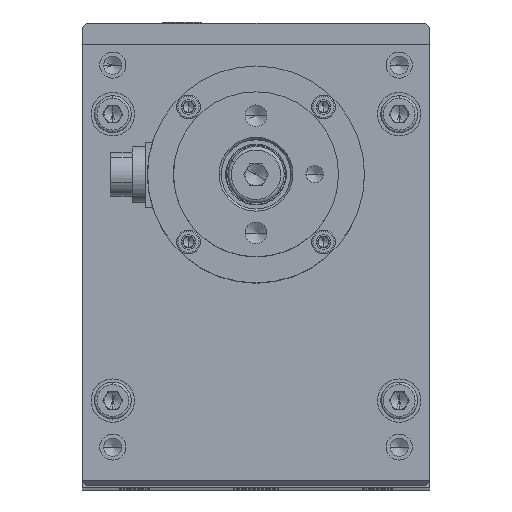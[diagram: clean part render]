
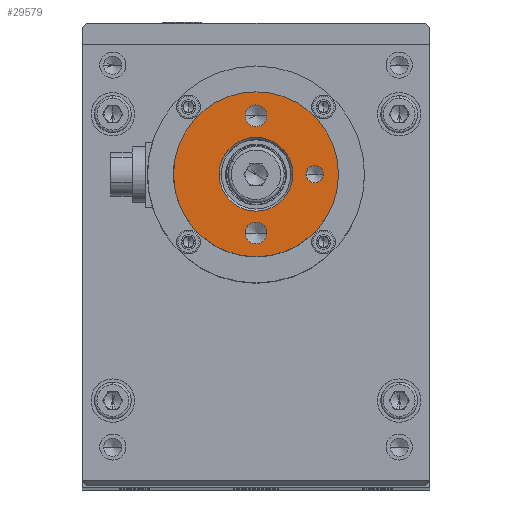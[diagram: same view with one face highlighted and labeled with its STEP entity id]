
A CAD part, top view. The second image highlights one B-rep face of the part: STEP entity #29579.
In plain terms, the highlighted planar face has unit normal (0, 0, 1).
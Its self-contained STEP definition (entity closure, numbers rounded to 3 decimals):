
#463 = CARTESIAN_POINT ( 'NONE',  ( 56.221, 81.416, 380.526 ) ) ;
#590 = VERTEX_POINT ( 'NONE', #9223 ) ;
#608 = DIRECTION ( 'NONE',  ( 0., 0., -1. ) ) ;
#1167 = FACE_BOUND ( 'NONE', #11052, .T. ) ;
#1487 = VERTEX_POINT ( 'NONE', #2208 ) ;
#1722 = EDGE_LOOP ( 'NONE', ( #23383, #18231 ) ) ;
#1762 = EDGE_CURVE ( 'NONE', #4384, #30446, #21382, .T. ) ;
#2208 = CARTESIAN_POINT ( 'NONE',  ( 37.221, 94.916, 380.526 ) ) ;
#2634 = CARTESIAN_POINT ( 'NONE',  ( 69.721, 94.916, 380.526 ) ) ;
#3108 = EDGE_LOOP ( 'NONE', ( #29006, #3557 ) ) ;
#3117 = CIRCLE ( 'NONE', #26135, 2.5 ) ;
#3557 = ORIENTED_EDGE ( 'NONE', *, *, #21236, .F. ) ;
#4044 = DIRECTION ( 'NONE',  ( -1., 0., 0. ) ) ;
#4384 = VERTEX_POINT ( 'NONE', #20354 ) ;
#4500 = EDGE_CURVE ( 'NONE', #30446, #4384, #10632, .T. ) ;
#4862 = EDGE_LOOP ( 'NONE', ( #24522, #15201 ) ) ;
#6226 = AXIS2_PLACEMENT_3D ( 'NONE', #2634, #10215, #25158 ) ;
#6259 = FACE_BOUND ( 'NONE', #4862, .T. ) ;
#6370 = DIRECTION ( 'NONE',  ( 0., 0., -1. ) ) ;
#6838 = CARTESIAN_POINT ( 'NONE',  ( 56.221, 108.416, 380.526 ) ) ;
#6903 = AXIS2_PLACEMENT_3D ( 'NONE', #25262, #7353, #10311 ) ;
#6924 = VERTEX_POINT ( 'NONE', #31903 ) ;
#7353 = DIRECTION ( 'NONE',  ( 0., 0., 1. ) ) ;
#7689 = EDGE_CURVE ( 'NONE', #590, #1487, #20035, .T. ) ;
#7869 = AXIS2_PLACEMENT_3D ( 'NONE', #29001, #6370, #16263 ) ;
#8090 = VERTEX_POINT ( 'NONE', #12093 ) ;
#8272 = EDGE_CURVE ( 'NONE', #28028, #6924, #25487, .T. ) ;
#8805 = ORIENTED_EDGE ( 'NONE', *, *, #28146, .F. ) ;
#9223 = CARTESIAN_POINT ( 'NONE',  ( 75.221, 94.916, 380.526 ) ) ;
#9284 = DIRECTION ( 'NONE',  ( 0., 0., 1. ) ) ;
#9312 = CARTESIAN_POINT ( 'NONE',  ( 56.221, 81.416, 380.526 ) ) ;
#10215 = DIRECTION ( 'NONE',  ( 0., 0., 1. ) ) ;
#10311 = DIRECTION ( 'NONE',  ( -1., 0., 0. ) ) ;
#10312 = CIRCLE ( 'NONE', #6226, 2. ) ;
#10347 = VERTEX_POINT ( 'NONE', #25511 ) ;
#10458 = DIRECTION ( 'NONE',  ( 0., 0., 1. ) ) ;
#10578 = CARTESIAN_POINT ( 'NONE',  ( 56.221, 94.916, 380.526 ) ) ;
#10632 = CIRCLE ( 'NONE', #28693, 8.5 ) ;
#10703 = DIRECTION ( 'NONE',  ( 1., 0., 0. ) ) ;
#11052 = EDGE_LOOP ( 'NONE', ( #31186, #8805 ) ) ;
#11372 = CARTESIAN_POINT ( 'NONE',  ( 64.221, 94.916, 380.526 ) ) ;
#11711 = EDGE_CURVE ( 'NONE', #8090, #10347, #3117, .T. ) ;
#12093 = CARTESIAN_POINT ( 'NONE',  ( 53.721, 108.416, 380.526 ) ) ;
#12521 = DIRECTION ( 'NONE',  ( 0., 0., 1. ) ) ;
#13094 = DIRECTION ( 'NONE',  ( 0., 0., -1. ) ) ;
#13448 = EDGE_LOOP ( 'NONE', ( #18911, #24454 ) ) ;
#13902 = DIRECTION ( 'NONE',  ( -1., 0., 0. ) ) ;
#14061 = AXIS2_PLACEMENT_3D ( 'NONE', #463, #10458, #22986 ) ;
#14383 = DIRECTION ( 'NONE',  ( -1., 0., 0. ) ) ;
#14656 = CIRCLE ( 'NONE', #26303, 2.5 ) ;
#15201 = ORIENTED_EDGE ( 'NONE', *, *, #4500, .T. ) ;
#15660 = CARTESIAN_POINT ( 'NONE',  ( 56.221, 94.916, 380.526 ) ) ;
#16102 = FACE_OUTER_BOUND ( 'NONE', #13448, .T. ) ;
#16263 = DIRECTION ( 'NONE',  ( 1., 0., 0. ) ) ;
#16464 = EDGE_CURVE ( 'NONE', #6924, #28028, #27191, .T. ) ;
#16566 = DIRECTION ( 'NONE',  ( 0., 0., -1. ) ) ;
#16880 = DIRECTION ( 'NONE',  ( 0., 0., 1. ) ) ;
#18231 = ORIENTED_EDGE ( 'NONE', *, *, #8272, .F. ) ;
#18612 = DIRECTION ( 'NONE',  ( 0., 0., 1. ) ) ;
#18681 = AXIS2_PLACEMENT_3D ( 'NONE', #11372, #18612, #13902 ) ;
#18862 = AXIS2_PLACEMENT_3D ( 'NONE', #15660, #608, #10703 ) ;
#18911 = ORIENTED_EDGE ( 'NONE', *, *, #7689, .F. ) ;
#18988 = CARTESIAN_POINT ( 'NONE',  ( 58.721, 81.416, 380.526 ) ) ;
#19246 = FACE_BOUND ( 'NONE', #3108, .T. ) ;
#19624 = FACE_BOUND ( 'NONE', #1722, .T. ) ;
#20035 = CIRCLE ( 'NONE', #18862, 19. ) ;
#20354 = CARTESIAN_POINT ( 'NONE',  ( 47.721, 94.916, 380.526 ) ) ;
#21236 = EDGE_CURVE ( 'NONE', #10347, #8090, #14656, .T. ) ;
#21382 = CIRCLE ( 'NONE', #28407, 8.5 ) ;
#21810 = VERTEX_POINT ( 'NONE', #27471 ) ;
#21994 = CARTESIAN_POINT ( 'NONE',  ( 64.721, 94.916, 380.526 ) ) ;
#22986 = DIRECTION ( 'NONE',  ( -1., 0., 0. ) ) ;
#23383 = ORIENTED_EDGE ( 'NONE', *, *, #16464, .F. ) ;
#24140 = CARTESIAN_POINT ( 'NONE',  ( 56.221, 94.916, 380.526 ) ) ;
#24454 = ORIENTED_EDGE ( 'NONE', *, *, #31821, .F. ) ;
#24522 = ORIENTED_EDGE ( 'NONE', *, *, #1762, .T. ) ;
#24958 = VERTEX_POINT ( 'NONE', #30363 ) ;
#25158 = DIRECTION ( 'NONE',  ( -1., 0., 0. ) ) ;
#25262 = CARTESIAN_POINT ( 'NONE',  ( 69.721, 94.916, 380.526 ) ) ;
#25487 = CIRCLE ( 'NONE', #14061, 2.5 ) ;
#25511 = CARTESIAN_POINT ( 'NONE',  ( 58.721, 108.416, 380.526 ) ) ;
#26135 = AXIS2_PLACEMENT_3D ( 'NONE', #27559, #12521, #30334 ) ;
#26303 = AXIS2_PLACEMENT_3D ( 'NONE', #6838, #9284, #26830 ) ;
#26405 = PLANE ( 'NONE',  #18681 ) ;
#26830 = DIRECTION ( 'NONE',  ( -1., 0., 0. ) ) ;
#27191 = CIRCLE ( 'NONE', #29427, 2.5 ) ;
#27471 = CARTESIAN_POINT ( 'NONE',  ( 71.721, 94.916, 380.526 ) ) ;
#27559 = CARTESIAN_POINT ( 'NONE',  ( 56.221, 108.416, 380.526 ) ) ;
#28028 = VERTEX_POINT ( 'NONE', #18988 ) ;
#28146 = EDGE_CURVE ( 'NONE', #21810, #24958, #10312, .T. ) ;
#28407 = AXIS2_PLACEMENT_3D ( 'NONE', #24140, #16566, #14383 ) ;
#28693 = AXIS2_PLACEMENT_3D ( 'NONE', #10578, #13094, #30698 ) ;
#29001 = CARTESIAN_POINT ( 'NONE',  ( 56.221, 94.916, 380.526 ) ) ;
#29006 = ORIENTED_EDGE ( 'NONE', *, *, #11711, .F. ) ;
#29294 = EDGE_CURVE ( 'NONE', #24958, #21810, #29507, .T. ) ;
#29427 = AXIS2_PLACEMENT_3D ( 'NONE', #9312, #16880, #4044 ) ;
#29507 = CIRCLE ( 'NONE', #6903, 2. ) ;
#29579 = ADVANCED_FACE ( 'NONE', ( #1167, #19246, #19624, #6259, #16102 ), #26405, .T. ) ;
#30235 = CIRCLE ( 'NONE', #7869, 19. ) ;
#30334 = DIRECTION ( 'NONE',  ( -1., 0., 0. ) ) ;
#30363 = CARTESIAN_POINT ( 'NONE',  ( 67.721, 94.916, 380.526 ) ) ;
#30446 = VERTEX_POINT ( 'NONE', #21994 ) ;
#30698 = DIRECTION ( 'NONE',  ( -1., 0., 0. ) ) ;
#31186 = ORIENTED_EDGE ( 'NONE', *, *, #29294, .F. ) ;
#31821 = EDGE_CURVE ( 'NONE', #1487, #590, #30235, .T. ) ;
#31903 = CARTESIAN_POINT ( 'NONE',  ( 53.721, 81.416, 380.526 ) ) ;
